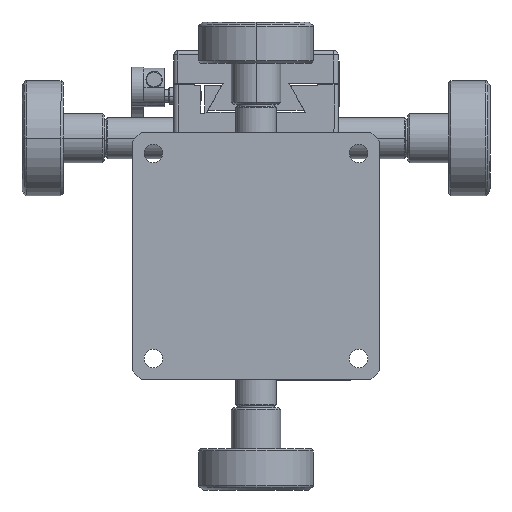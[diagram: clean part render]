
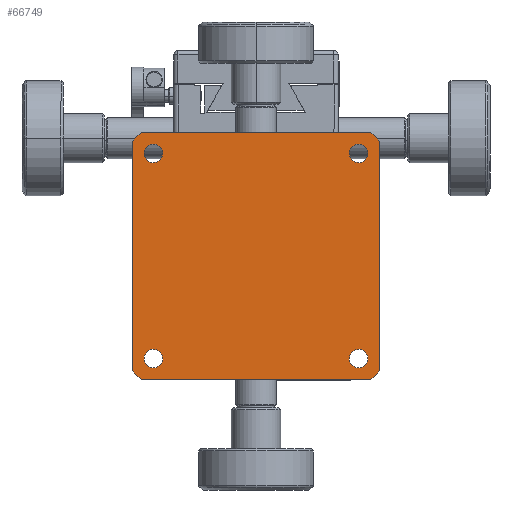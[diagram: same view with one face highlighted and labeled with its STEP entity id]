
A CAD part, front view. The second image highlights one B-rep face of the part: STEP entity #66749.
In plain terms, the highlighted planar face has unit normal (0, -1, 0).
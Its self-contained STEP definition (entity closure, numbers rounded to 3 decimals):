
#415 = AXIS2_PLACEMENT_3D ( 'NONE', #26984, #65615, #32523 ) ;
#558 = VECTOR ( 'NONE', #28157, 1000. ) ;
#1177 = DIRECTION ( 'NONE',  ( 0., 0., 1. ) ) ;
#1454 = LINE ( 'NONE', #17943, #16267 ) ;
#1516 = VERTEX_POINT ( 'NONE', #49357 ) ;
#1575 = DIRECTION ( 'NONE',  ( 1., 0., 0. ) ) ;
#2173 = DIRECTION ( 'NONE',  ( 0., 1., 0. ) ) ;
#3008 = CIRCLE ( 'NONE', #38283, 2.25 ) ;
#4276 = LINE ( 'NONE', #59100, #46830 ) ;
#4914 = CIRCLE ( 'NONE', #58601, 2.25 ) ;
#5070 = ORIENTED_EDGE ( 'NONE', *, *, #10447, .T. ) ;
#5511 = ORIENTED_EDGE ( 'NONE', *, *, #30412, .F. ) ;
#5524 = ORIENTED_EDGE ( 'NONE', *, *, #69324, .T. ) ;
#6013 = CIRCLE ( 'NONE', #64876, 2.25 ) ;
#6237 = CIRCLE ( 'NONE', #415, 2.25 ) ;
#6493 = CIRCLE ( 'NONE', #35605, 2.25 ) ;
#7107 = EDGE_CURVE ( 'NONE', #28143, #45759, #4276, .T. ) ;
#7657 = EDGE_CURVE ( 'NONE', #32010, #66346, #35455, .T. ) ;
#8635 = CARTESIAN_POINT ( 'NONE',  ( 27.25, 0., 25. ) ) ;
#9165 = EDGE_CURVE ( 'NONE', #56839, #44710, #4914, .T. ) ;
#9666 = DIRECTION ( 'NONE',  ( 0.707, 0., 0.707 ) ) ;
#10151 = ORIENTED_EDGE ( 'NONE', *, *, #7107, .F. ) ;
#10447 = EDGE_CURVE ( 'NONE', #21455, #1516, #3008, .T. ) ;
#13425 = ORIENTED_EDGE ( 'NONE', *, *, #9165, .T. ) ;
#13618 = CARTESIAN_POINT ( 'NONE',  ( 22.75, 0., 25. ) ) ;
#14051 = DIRECTION ( 'NONE',  ( 0., 1., 0. ) ) ;
#14454 = ORIENTED_EDGE ( 'NONE', *, *, #34538, .T. ) ;
#14520 = LINE ( 'NONE', #66339, #55244 ) ;
#14555 = ORIENTED_EDGE ( 'NONE', *, *, #32118, .T. ) ;
#14789 = CARTESIAN_POINT ( 'NONE',  ( 29., 0., -29. ) ) ;
#14868 = CIRCLE ( 'NONE', #28274, 2.25 ) ;
#16267 = VECTOR ( 'NONE', #1177, 1000. ) ;
#16375 = DIRECTION ( 'NONE',  ( -0.707, 0., -0.707 ) ) ;
#16827 = CARTESIAN_POINT ( 'NONE',  ( -25., 0., 25. ) ) ;
#17847 = VECTOR ( 'NONE', #26760, 1000. ) ;
#17943 = CARTESIAN_POINT ( 'NONE',  ( -30., 0., 30. ) ) ;
#19648 = ORIENTED_EDGE ( 'NONE', *, *, #59554, .F. ) ;
#19734 = FACE_OUTER_BOUND ( 'NONE', #60319, .T. ) ;
#20017 = PLANE ( 'NONE',  #62033 ) ;
#20635 = DIRECTION ( 'NONE',  ( -1., 0., 0. ) ) ;
#21019 = CIRCLE ( 'NONE', #29666, 2.25 ) ;
#21455 = VERTEX_POINT ( 'NONE', #23613 ) ;
#21501 = FACE_BOUND ( 'NONE', #56849, .T. ) ;
#22414 = DIRECTION ( 'NONE',  ( 1., 0., 0. ) ) ;
#22885 = CARTESIAN_POINT ( 'NONE',  ( -28., 0., -30. ) ) ;
#23109 = CARTESIAN_POINT ( 'NONE',  ( -25., 0., 25. ) ) ;
#23613 = CARTESIAN_POINT ( 'NONE',  ( -22.75, 0., 25. ) ) ;
#24261 = EDGE_CURVE ( 'NONE', #62623, #68386, #6237, .T. ) ;
#26312 = CARTESIAN_POINT ( 'NONE',  ( -28., 0., 30. ) ) ;
#26726 = ORIENTED_EDGE ( 'NONE', *, *, #56764, .T. ) ;
#26760 = DIRECTION ( 'NONE',  ( 1., 0., 0. ) ) ;
#26984 = CARTESIAN_POINT ( 'NONE',  ( -25., 0., -25. ) ) ;
#27178 = DIRECTION ( 'NONE',  ( 0., 1., 0. ) ) ;
#27807 = CARTESIAN_POINT ( 'NONE',  ( 25., 0., -25. ) ) ;
#28143 = VERTEX_POINT ( 'NONE', #60065 ) ;
#28157 = DIRECTION ( 'NONE',  ( 0.707, 0., -0.707 ) ) ;
#28274 = AXIS2_PLACEMENT_3D ( 'NONE', #47275, #14051, #52785 ) ;
#28700 = DIRECTION ( 'NONE',  ( 1., 0., 0. ) ) ;
#29666 = AXIS2_PLACEMENT_3D ( 'NONE', #35429, #2173, #41029 ) ;
#30040 = VECTOR ( 'NONE', #9666, 1000. ) ;
#30357 = CARTESIAN_POINT ( 'NONE',  ( 30., 0., 28. ) ) ;
#30412 = EDGE_CURVE ( 'NONE', #46888, #63799, #1454, .T. ) ;
#31993 = VERTEX_POINT ( 'NONE', #13618 ) ;
#32010 = VERTEX_POINT ( 'NONE', #30357 ) ;
#32118 = EDGE_CURVE ( 'NONE', #50913, #31993, #6493, .T. ) ;
#32523 = DIRECTION ( 'NONE',  ( 1., 0., 0. ) ) ;
#33358 = DIRECTION ( 'NONE',  ( 1., 0., 0. ) ) ;
#33565 = CARTESIAN_POINT ( 'NONE',  ( -59., 0., 1. ) ) ;
#34447 = FACE_BOUND ( 'NONE', #42814, .T. ) ;
#34538 = EDGE_CURVE ( 'NONE', #68386, #62623, #21019, .T. ) ;
#34816 = DIRECTION ( 'NONE',  ( 0., 1., 0. ) ) ;
#35429 = CARTESIAN_POINT ( 'NONE',  ( -25., 0., -25. ) ) ;
#35455 = LINE ( 'NONE', #47234, #63096 ) ;
#35470 = VERTEX_POINT ( 'NONE', #26312 ) ;
#35605 = AXIS2_PLACEMENT_3D ( 'NONE', #60303, #27178, #65808 ) ;
#36061 = DIRECTION ( 'NONE',  ( -0.707, 0., 0.707 ) ) ;
#36200 = ORIENTED_EDGE ( 'NONE', *, *, #70936, .T. ) ;
#36723 = DIRECTION ( 'NONE',  ( -1., 0., 0. ) ) ;
#38283 = AXIS2_PLACEMENT_3D ( 'NONE', #23109, #61789, #28700 ) ;
#39151 = CARTESIAN_POINT ( 'NONE',  ( -22.75, 0., -25. ) ) ;
#40432 = ORIENTED_EDGE ( 'NONE', *, *, #46321, .T. ) ;
#40512 = EDGE_CURVE ( 'NONE', #32010, #63687, #14520, .T. ) ;
#41029 = DIRECTION ( 'NONE',  ( 1., 0., 0. ) ) ;
#41723 = CARTESIAN_POINT ( 'NONE',  ( -27.25, 0., -25. ) ) ;
#42814 = EDGE_LOOP ( 'NONE', ( #14555, #5524 ) ) ;
#43877 = EDGE_LOOP ( 'NONE', ( #14454, #64105 ) ) ;
#44040 = CARTESIAN_POINT ( 'NONE',  ( -29., 0., 29. ) ) ;
#44453 = DIRECTION ( 'NONE',  ( 0., 0., -1. ) ) ;
#44710 = VERTEX_POINT ( 'NONE', #61472 ) ;
#44815 = LINE ( 'NONE', #14789, #30040 ) ;
#45072 = AXIS2_PLACEMENT_3D ( 'NONE', #67897, #34816, #1575 ) ;
#45759 = VERTEX_POINT ( 'NONE', #22885 ) ;
#45807 = ORIENTED_EDGE ( 'NONE', *, *, #40512, .F. ) ;
#46321 = EDGE_CURVE ( 'NONE', #28143, #63687, #44815, .T. ) ;
#46588 = LINE ( 'NONE', #33565, #558 ) ;
#46830 = VECTOR ( 'NONE', #20635, 1000. ) ;
#46888 = VERTEX_POINT ( 'NONE', #64490 ) ;
#47234 = CARTESIAN_POINT ( 'NONE',  ( -1., 0., 59. ) ) ;
#47275 = CARTESIAN_POINT ( 'NONE',  ( 25., 0., -25. ) ) ;
#47363 = LINE ( 'NONE', #65390, #17847 ) ;
#48365 = EDGE_CURVE ( 'NONE', #35470, #63799, #56626, .T. ) ;
#49302 = ORIENTED_EDGE ( 'NONE', *, *, #7657, .T. ) ;
#49357 = CARTESIAN_POINT ( 'NONE',  ( -27.25, 0., 25. ) ) ;
#49373 = CARTESIAN_POINT ( 'NONE',  ( 28., 0., 30. ) ) ;
#50913 = VERTEX_POINT ( 'NONE', #8635 ) ;
#50940 = FACE_BOUND ( 'NONE', #58907, .T. ) ;
#52785 = DIRECTION ( 'NONE',  ( 1., 0., 0. ) ) ;
#54096 = CARTESIAN_POINT ( 'NONE',  ( -30., 0., 28. ) ) ;
#55244 = VECTOR ( 'NONE', #44453, 1000. ) ;
#55432 = ORIENTED_EDGE ( 'NONE', *, *, #55447, .T. ) ;
#55447 = EDGE_CURVE ( 'NONE', #44710, #56839, #14868, .T. ) ;
#55571 = DIRECTION ( 'NONE',  ( 0., 1., 0. ) ) ;
#56029 = CARTESIAN_POINT ( 'NONE',  ( 27.25, 0., -25. ) ) ;
#56626 = LINE ( 'NONE', #44040, #69545 ) ;
#56764 = EDGE_CURVE ( 'NONE', #1516, #21455, #6013, .T. ) ;
#56839 = VERTEX_POINT ( 'NONE', #56029 ) ;
#56849 = EDGE_LOOP ( 'NONE', ( #13425, #55432 ) ) ;
#58601 = AXIS2_PLACEMENT_3D ( 'NONE', #27807, #66434, #33358 ) ;
#58907 = EDGE_LOOP ( 'NONE', ( #5070, #26726 ) ) ;
#58952 = CARTESIAN_POINT ( 'NONE',  ( 30., 0., -28. ) ) ;
#59100 = CARTESIAN_POINT ( 'NONE',  ( 30., 0., -30. ) ) ;
#59554 = EDGE_CURVE ( 'NONE', #35470, #66346, #47363, .T. ) ;
#60065 = CARTESIAN_POINT ( 'NONE',  ( 28., 0., -30. ) ) ;
#60303 = CARTESIAN_POINT ( 'NONE',  ( 25., 0., 25. ) ) ;
#60319 = EDGE_LOOP ( 'NONE', ( #19648, #66295, #5511, #36200, #10151, #40432, #45807, #49302 ) ) ;
#61472 = CARTESIAN_POINT ( 'NONE',  ( 22.75, 0., -25. ) ) ;
#61789 = DIRECTION ( 'NONE',  ( 0., 1., 0. ) ) ;
#62033 = AXIS2_PLACEMENT_3D ( 'NONE', #64240, #69806, #36723 ) ;
#62623 = VERTEX_POINT ( 'NONE', #41723 ) ;
#63096 = VECTOR ( 'NONE', #36061, 1000. ) ;
#63687 = VERTEX_POINT ( 'NONE', #58952 ) ;
#63799 = VERTEX_POINT ( 'NONE', #54096 ) ;
#63849 = FACE_BOUND ( 'NONE', #43877, .T. ) ;
#64105 = ORIENTED_EDGE ( 'NONE', *, *, #24261, .T. ) ;
#64240 = CARTESIAN_POINT ( 'NONE',  ( -30., 0., 30. ) ) ;
#64490 = CARTESIAN_POINT ( 'NONE',  ( -30., 0., -28. ) ) ;
#64876 = AXIS2_PLACEMENT_3D ( 'NONE', #16827, #55571, #22414 ) ;
#65390 = CARTESIAN_POINT ( 'NONE',  ( 30., 0., 30. ) ) ;
#65615 = DIRECTION ( 'NONE',  ( 0., 1., 0. ) ) ;
#65808 = DIRECTION ( 'NONE',  ( 1., 0., 0. ) ) ;
#66295 = ORIENTED_EDGE ( 'NONE', *, *, #48365, .T. ) ;
#66339 = CARTESIAN_POINT ( 'NONE',  ( 30., 0., 30. ) ) ;
#66346 = VERTEX_POINT ( 'NONE', #49373 ) ;
#66434 = DIRECTION ( 'NONE',  ( 0., 1., 0. ) ) ;
#66749 = ADVANCED_FACE ( 'NONE', ( #34447, #50940, #63849, #21501, #19734 ), #20017, .T. ) ;
#67897 = CARTESIAN_POINT ( 'NONE',  ( 25., 0., 25. ) ) ;
#68386 = VERTEX_POINT ( 'NONE', #39151 ) ;
#69324 = EDGE_CURVE ( 'NONE', #31993, #50913, #70596, .T. ) ;
#69545 = VECTOR ( 'NONE', #16375, 1000. ) ;
#69806 = DIRECTION ( 'NONE',  ( 0., -1., 0. ) ) ;
#70596 = CIRCLE ( 'NONE', #45072, 2.25 ) ;
#70936 = EDGE_CURVE ( 'NONE', #46888, #45759, #46588, .T. ) ;
